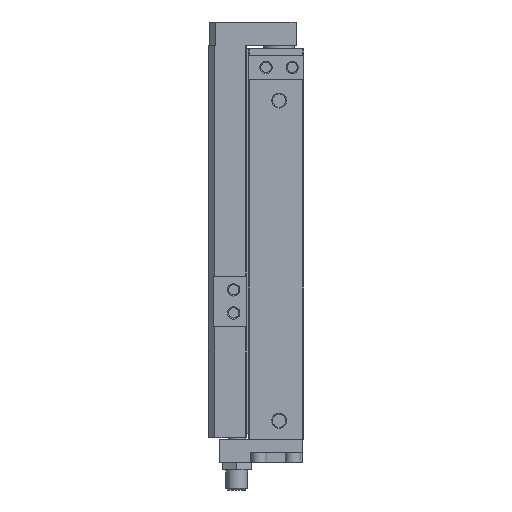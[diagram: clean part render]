
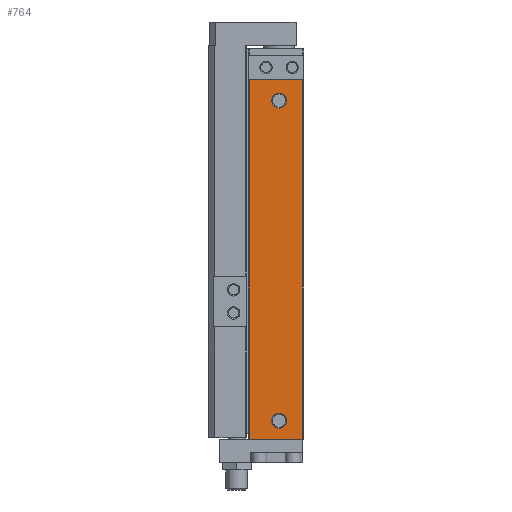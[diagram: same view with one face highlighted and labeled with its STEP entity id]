
A CAD part, left-side view. The second image highlights one B-rep face of the part: STEP entity #764.
In plain terms, the highlighted planar face has unit normal (-1, 0, 0).
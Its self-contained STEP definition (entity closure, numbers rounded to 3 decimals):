
#764 = ADVANCED_FACE( '', ( #2015, #2016, #2017 ), #2018, .T. );
#2015 = FACE_BOUND( '', #3976, .T. );
#2016 = FACE_BOUND( '', #3977, .T. );
#2017 = FACE_OUTER_BOUND( '', #3978, .T. );
#2018 = PLANE( '', #3979 );
#3976 = EDGE_LOOP( '', ( #6203 ) );
#3977 = EDGE_LOOP( '', ( #6204 ) );
#3978 = EDGE_LOOP( '', ( #6205, #6206, #6207, #6208 ) );
#3979 = AXIS2_PLACEMENT_3D( '', #6209, #6210, #6211 );
#6203 = ORIENTED_EDGE( '', *, *, #10683, .T. );
#6204 = ORIENTED_EDGE( '', *, *, #10684, .T. );
#6205 = ORIENTED_EDGE( '', *, *, #10685, .T. );
#6206 = ORIENTED_EDGE( '', *, *, #10686, .F. );
#6207 = ORIENTED_EDGE( '', *, *, #10464, .F. );
#6208 = ORIENTED_EDGE( '', *, *, #10687, .T. );
#6209 = CARTESIAN_POINT( '', ( -43., 35.505, -253.5 ) );
#6210 = DIRECTION( '', ( -1., 0., 0. ) );
#6211 = DIRECTION( '', ( 0., 0., 1. ) );
#10464 = EDGE_CURVE( '', #12298, #12299, #12300, .T. );
#10683 = EDGE_CURVE( '', #12678, #12678, #12679, .T. );
#10684 = EDGE_CURVE( '', #12680, #12680, #12681, .T. );
#10685 = EDGE_CURVE( '', #12682, #12683, #12684, .T. );
#10686 = EDGE_CURVE( '', #12299, #12683, #12685, .T. );
#10687 = EDGE_CURVE( '', #12298, #12682, #12686, .T. );
#12298 = VERTEX_POINT( '', #15008 );
#12299 = VERTEX_POINT( '', #15009 );
#12300 = LINE( '', #15010, #15011 );
#12678 = VERTEX_POINT( '', #15510 );
#12679 = CIRCLE( '', #15511, 4.864 );
#12680 = VERTEX_POINT( '', #15512 );
#12681 = CIRCLE( '', #15513, 4.864 );
#12682 = VERTEX_POINT( '', #15514 );
#12683 = VERTEX_POINT( '', #15515 );
#12684 = LINE( '', #15516, #15517 );
#12685 = LINE( '', #15518, #15519 );
#12686 = LINE( '', #15520, #15521 );
#15008 = CARTESIAN_POINT( '', ( -43., 35.505, -253.5 ) );
#15009 = CARTESIAN_POINT( '', ( -43., 35.505, -20. ) );
#15010 = CARTESIAN_POINT( '', ( -43., 35.505, -253.5 ) );
#15011 = VECTOR( '', #18464, 1000. );
#15510 = CARTESIAN_POINT( '', ( -43., 16., -246.364 ) );
#15511 = AXIS2_PLACEMENT_3D( '', #18733, #18734, #18735 );
#15512 = CARTESIAN_POINT( '', ( -43., 16., -38.364 ) );
#15513 = AXIS2_PLACEMENT_3D( '', #18736, #18737, #18738 );
#15514 = CARTESIAN_POINT( '', ( -43., 0.495, -253.5 ) );
#15515 = CARTESIAN_POINT( '', ( -43., 0.495, -20. ) );
#15516 = CARTESIAN_POINT( '', ( -43., 0.495, -253.5 ) );
#15517 = VECTOR( '', #18739, 1000. );
#15518 = CARTESIAN_POINT( '', ( -43., 36., -20. ) );
#15519 = VECTOR( '', #18740, 1000. );
#15520 = CARTESIAN_POINT( '', ( -43., 35.505, -253.5 ) );
#15521 = VECTOR( '', #18741, 1000. );
#18464 = DIRECTION( '', ( 0., 0., 1. ) );
#18733 = CARTESIAN_POINT( '', ( -43., 16., -241.5 ) );
#18734 = DIRECTION( '', ( 1., 0., 0. ) );
#18735 = DIRECTION( '', ( 0., 0., -1. ) );
#18736 = CARTESIAN_POINT( '', ( -43., 16., -33.5 ) );
#18737 = DIRECTION( '', ( 1., 0., 0. ) );
#18738 = DIRECTION( '', ( 0., 0., -1. ) );
#18739 = DIRECTION( '', ( 0., 0., 1. ) );
#18740 = DIRECTION( '', ( 0., -1., 0. ) );
#18741 = DIRECTION( '', ( 0., -1., 0. ) );
